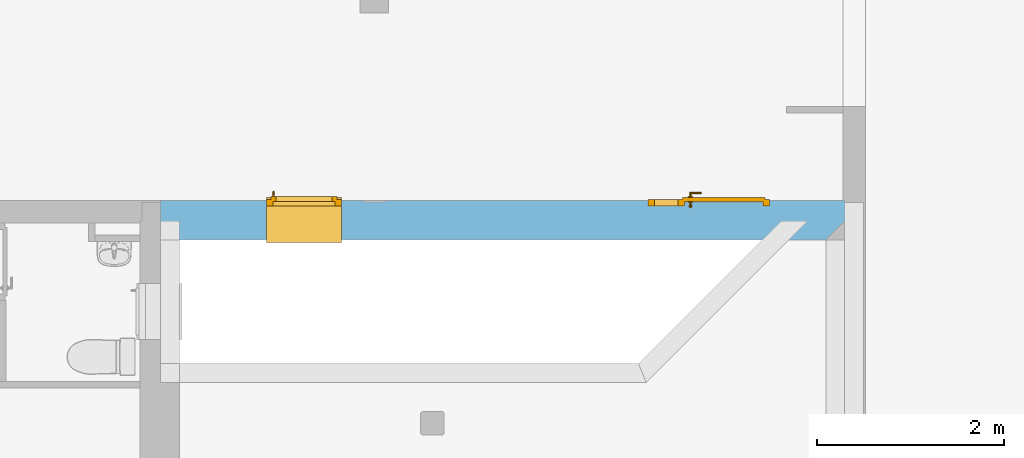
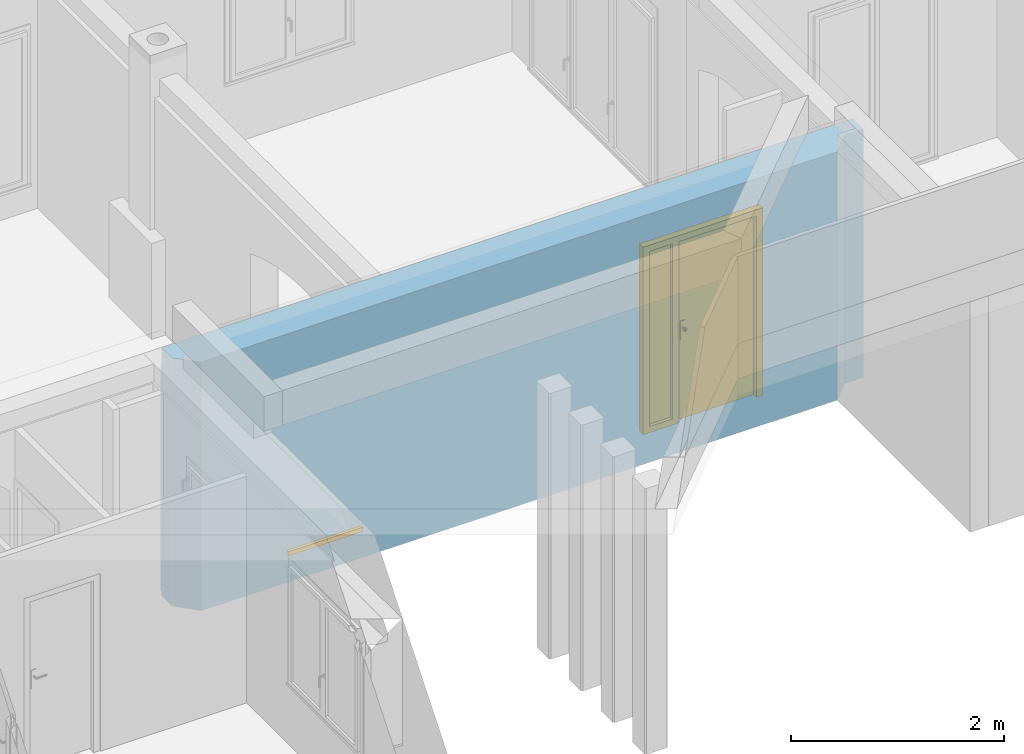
# One storey, part 10 of 16: 1 door, 1 window, 2 openings, plus 1 element that does not belong to this part.
"""IFC4 building model written with IfcOpenShell, lengths in metres."""

from ifc_helpers import new_model, entity, si_unit, converted_unit, frame, origin, origin_with_axes, place, context, subcontext, project, spatial, polyline, outline, extrude, clip, bounded_halfspace, closed_shell, open_shell, surface_model, source, transform, mapped, material, layer, layer_set, layer_usage, type_object, element, fill, save


model = new_model("IFC4")

# Units and contexts
model_context = context("Model", 3, precision=1e-05, world=origin())
body_context = subcontext(model_context, "Body", "Model", "MODEL_VIEW")
ifc_project = project(units=[si_unit("LENGTHUNIT", "METRE"), si_unit("AREAUNIT", "SQUARE_METRE"), si_unit("VOLUMEUNIT", "CUBIC_METRE"), si_unit("MASSUNIT", "GRAM", prefix="KILO"), converted_unit("PLANEANGLEUNIT", "DEGREE", entity("IfcPlaneAngleMeasure", 0.0174532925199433), si_unit("PLANEANGLEUNIT", "RADIAN"), dimensions=[0, 0, 0, 0, 0, 0, 0])], contexts=[model_context])

# Building, storey
building_placement = place(None, origin())
building = spatial("IfcBuilding", under=ifc_project, at=building_placement, Name="Projet de Construction", CompositionType="ELEMENT")
storey_placement = place(building_placement, frame((0.0, 0.0, -0.05)))
storey = spatial("IfcBuildingStorey", under=building, at=storey_placement, Name="RDC", CompositionType="ELEMENT", Elevation=-0.05)

# Wall, openings, door, window
ifc_material_1 = material()
ifc_layer_1 = layer(ifc_material_1, 0.2)
ifc_material_2 = material()
ifc_layer_2 = layer(ifc_material_2, 0.2)
ifc_material_3 = material()
ifc_layer_3 = layer(ifc_material_3, 0.02)
ifc_layer_set = layer_set([ifc_layer_1, ifc_layer_2, ifc_layer_3])
ifc_layer_usage = layer_usage(ifc_layer_set, "AXIS2", "POSITIVE", 0.0)
wall_placement = place(storey_placement, frame((-3.9459375, 1.29979166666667, 0.0), z_axis=(0.0, 0.0, 1.0), x_axis=(1.0, -1.31810826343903e-16, 0.0)))
wall = element("IfcWall", 1, at=wall_placement, inside=storey, material=ifc_layer_usage, context=body_context, shape_type="Clipping", body=[
    clip(clip(extrude(outline(polyline([(0.200000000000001, 9.35856867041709e-16), (7.1, 9.35856867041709e-16), (7.3, 0.200000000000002), (7.5, 0.200000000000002), (7.5, 0.400000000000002), (7.3, 0.400000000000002), (7.3, 0.420000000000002), (-5.53605470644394e-17, 0.420000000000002), (-2.63621652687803e-17, 0.199999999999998), (0.200000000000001, 9.35856867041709e-16)])), frame((-0.200000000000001, -9.35856867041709e-16, 0.0), z_axis=(0.0, 0.0, 1.0), x_axis=(1.0, 0.0, 0.0)), (0.0, 0.0, 1.0), 2.85), bounded_halfspace(frame((3.45, 0.41, 0.05), z_axis=(0.0, 0.0, 1.0), x_axis=(1.31810826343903e-16, -1.0, 0.0)), True, origin_with_axes(), polyline([(-0.200000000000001, 0.420000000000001), (-0.200000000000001, 0.399999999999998), (7.1, 0.400000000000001), (7.1, 0.420000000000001), (-0.200000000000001, 0.420000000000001)]))), bounded_halfspace(frame((3.45, 0.41, 2.65), z_axis=(0.0, 0.0, -1.0), x_axis=(1.0, 3.80987456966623e-16, 0.0)), True, origin_with_axes(), polyline([(-0.200000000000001, 0.399999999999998), (7.1, 0.400000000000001), (7.1, 0.420000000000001), (-0.200000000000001, 0.420000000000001), (-0.200000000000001, 0.399999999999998)]))),
])
opening_1_placement = place(wall_placement, frame((6.3, 0.200000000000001, 0.05), z_axis=(0.0, -1.0, 0.0), x_axis=(0.0, 0.0, 1.0)))
opening_1 = element("IfcOpeningStandardCase", 2, at=opening_1_placement, cuts=wall, Name="Baie de porte", PredefinedType="OPENING", context=body_context, shape_type="SweptSolid", body=[
    extrude(outline(polyline([(0.0, 1.3), (2.15, 1.3), (2.15, 0.0), (0.0, 0.0), (0.0, 1.3)])), origin_with_axes(), (0.0, 0.0, 1.0), 0.200000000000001),
    extrude(outline(polyline([(0.0, 1.3), (2.15, 1.3), (2.15, 0.0), (0.0, 0.0), (0.0, 1.3)])), frame((0.0, -3.49805654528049e-17, -0.2), z_axis=(0.0, 0.0, 1.0), x_axis=(1.0, 0.0, 0.0)), (0.0, 0.0, 1.0), 0.2),
    extrude(outline(polyline([(0.0, 1.3), (2.15, 1.3), (2.15, 0.0), (0.0, 0.0), (0.0, 1.3)])), frame((0.0, -3.84786219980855e-17, -0.22), z_axis=(0.0, 0.0, 1.0), x_axis=(1.0, 0.0, 0.0)), (0.0, 0.0, 1.0), 0.02),
])
opening_2_placement = place(wall_placement, frame((1.73, 0.199999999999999, 0.35), z_axis=(0.0, -1.0, 0.0), x_axis=(0.0, 0.0, 1.0)))
opening_2 = element("IfcOpeningStandardCase", 3, at=opening_2_placement, cuts=wall, Name="Baie de fenêtre", PredefinedType="OPENING", context=body_context, shape_type="SweptSolid", body=[
    extrude(outline(polyline([(0.0, 0.8), (1.85, 0.8), (1.85, 0.0), (0.0, 0.0), (0.0, 0.8)])), origin_with_axes(), (0.0, 0.0, 1.0), 0.199999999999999),
    extrude(outline(polyline([(0.0, 0.8), (1.85, 0.8), (1.85, 0.0), (0.0, 0.0), (0.0, 0.8)])), frame((0.0, -5.6843418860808e-17, -0.2), z_axis=(0.0, 0.0, 1.0), x_axis=(1.0, 0.0, 0.0)), (0.0, 0.0, 1.0), 0.2),
    extrude(outline(polyline([(0.0, 0.8), (1.85, 0.8), (1.85, 0.0), (0.0, 0.0), (0.0, 0.8)])), frame((0.0, -6.25277607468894e-17, -0.220000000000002), z_axis=(0.0, 0.0, 1.0), x_axis=(1.0, 0.0, 0.0)), (0.0, 0.0, 1.0), 0.02),
])
ifc_material_4 = material()
door_type = type_object("IfcDoorType", Name="1 vantail blanc 1 partie latéral", OperationType="NOTDEFINED", ParameterTakesPrecedence=False, PredefinedType="DOOR")
shared_shape_1 = source(origin_with_axes(), body_context, "Body", "SurfaceModel", [
    surface_model("IfcShellBasedSurfaceModel", [(0.0, 0.0900000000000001, 2.15), (0.0, 0.0899999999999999, -4.28626379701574e-18), (0.07, 0.0899999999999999, -4.28626379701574e-18), (0.07, 0.0900000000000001, 2.15), (0.0, 0.0199999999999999, 4.28626379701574e-18), (0.0, 0.0200000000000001, 2.15), (0.07, 0.0200000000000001, 2.15), (0.07, 0.0199999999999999, 4.28626379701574e-18)], [closed_shell([[[0, 1, 2, 3]], [[4, 5, 6, 7]], [[1, 0, 5, 4]], [[2, 1, 4, 7]], [[3, 2, 7, 6]], [[0, 3, 6, 5]]], orient=[[False], [False], [False], [False], [False], [False]])]),
    surface_model("IfcShellBasedSurfaceModel", [(1.23, 0.0900000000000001, 2.15), (1.23, 0.0899999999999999, -4.28626379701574e-18), (1.3, 0.0899999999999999, -4.28626379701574e-18), (1.3, 0.0900000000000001, 2.15), (1.23, 0.0199999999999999, 4.28626379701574e-18), (1.23, 0.0200000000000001, 2.15), (1.3, 0.0200000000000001, 2.15), (1.3, 0.0199999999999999, 4.28626379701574e-18)], [closed_shell([[[0, 1, 2, 3]], [[4, 5, 6, 7]], [[1, 0, 5, 4]], [[2, 1, 4, 7]], [[3, 2, 7, 6]], [[0, 3, 6, 5]]], orient=[[False], [False], [False], [False], [False], [False]])]),
    surface_model("IfcShellBasedSurfaceModel", [(0.07, 0.0900000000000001, 2.15), (0.07, 0.0900000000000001, 2.08), (1.23, 0.0900000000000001, 2.08), (1.23, 0.0900000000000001, 2.15), (0.07, 0.0200000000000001, 2.08), (0.07, 0.0200000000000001, 2.15), (1.23, 0.0200000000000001, 2.15), (1.23, 0.0200000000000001, 2.08)], [closed_shell([[[0, 1, 2, 3]], [[4, 5, 6, 7]], [[1, 0, 5, 4]], [[2, 1, 4, 7]], [[3, 2, 7, 6]], [[0, 3, 6, 5]]], orient=[[False], [False], [False], [False], [False], [False]])]),
    surface_model("IfcShellBasedSurfaceModel", [(0.32, 0.0900000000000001, 2.08), (0.32, 0.0899999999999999, -4.28626379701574e-18), (0.39, 0.0899999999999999, -4.28626379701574e-18), (0.39, 0.0900000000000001, 2.08), (0.32, 0.0199999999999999, 4.28626379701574e-18), (0.32, 0.0200000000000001, 2.08), (0.39, 0.0200000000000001, 2.08), (0.39, 0.0199999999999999, 4.28626379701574e-18)], [closed_shell([[[0, 1, 2, 3]], [[4, 5, 6, 7]], [[1, 0, 5, 4]], [[2, 1, 4, 7]], [[3, 2, 7, 6]], [[0, 3, 6, 5]]], orient=[[False], [False], [False], [False], [False], [False]])]),
    surface_model("IfcShellBasedSurfaceModel", [(0.07, 0.0899999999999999, 0.07), (0.07, 0.0899999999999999, -4.28626379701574e-18), (0.32, 0.0899999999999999, -4.28626379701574e-18), (0.32, 0.0899999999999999, 0.07), (0.07, 0.0199999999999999, 4.28626379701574e-18), (0.07, 0.0199999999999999, 0.07), (0.32, 0.0199999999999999, 0.07), (0.32, 0.0199999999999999, 4.28626379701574e-18)], [closed_shell([[[0, 1, 2, 3]], [[4, 5, 6, 7]], [[1, 0, 5, 4]], [[2, 1, 4, 7]], [[3, 2, 7, 6]], [[0, 3, 6, 5]]], orient=[[False], [False], [False], [False], [False], [False]])]),
    surface_model("IfcShellBasedSurfaceModel", [(0.37, 0.11, 2.1), (0.37, 0.11, -6.73555739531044e-18), (1.25, 0.11, -6.73555739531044e-18), (1.25, 0.11, 2.1), (0.37, 0.0699999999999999, -1.83697019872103e-18), (0.37, 0.0700000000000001, 2.1), (1.25, 0.0700000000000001, 2.1), (1.25, 0.0699999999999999, -1.83697019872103e-18)], [closed_shell([[[0, 1, 2, 3]], [[4, 5, 6, 7]], [[1, 0, 5, 4]], [[2, 1, 4, 7]], [[3, 2, 7, 6]], [[0, 3, 6, 5]]], orient=[[False], [False], [False], [False], [False], [False]])]),
    surface_model("IfcShellBasedSurfaceModel", [(0.43, 0.07, 1.125), (0.43, 0.07, 0.91), (0.48, 0.07, 0.91), (0.48, 0.07, 1.125), (0.43, 0.06, 0.91), (0.43, 0.06, 1.125), (0.48, 0.06, 1.125), (0.48, 0.06, 0.91)], [closed_shell([[[0, 1, 2, 3]], [[4, 5, 6, 7]], [[1, 0, 5, 4]], [[2, 1, 4, 7]], [[3, 2, 7, 6]], [[0, 3, 6, 5]]], orient=[[False], [False], [False], [False], [False], [False]])]),
    surface_model("IfcShellBasedSurfaceModel", [(0.463660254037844, 0.06, 1.045), (0.465, 0.06, 1.05), (0.463660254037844, 0.06, 1.055), (0.46, 0.06, 1.05866025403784), (0.455, 0.06, 1.06), (0.45, 0.06, 1.05866025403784), (0.446339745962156, 0.06, 1.055), (0.445, 0.06, 1.05), (0.446339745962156, 0.06, 1.045), (0.45, 0.06, 1.04133974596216), (0.455, 0.06, 1.04), (0.46, 0.06, 1.04133974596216), (0.465, 0.02, 1.05), (0.463660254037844, 0.02, 1.045), (0.46, 0.02, 1.04133974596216), (0.455, 0.02, 1.04), (0.45, 0.02, 1.04133974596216), (0.446339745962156, 0.02, 1.045), (0.445, 0.02, 1.05), (0.446339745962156, 0.02, 1.055), (0.45, 0.02, 1.05866025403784), (0.455, 0.02, 1.06), (0.46, 0.02, 1.05866025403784), (0.463660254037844, 0.02, 1.055)], [closed_shell([[[0, 1, 2, 3, 4, 5, 6, 7, 8, 9, 10, 11]], [[12, 13, 14, 15, 16, 17, 18, 19, 20, 21, 22, 23]], [[1, 0, 13, 12]], [[2, 1, 12, 23]], [[3, 2, 23, 22]], [[4, 3, 22, 21]], [[5, 4, 21, 20]], [[6, 5, 20, 19]], [[7, 6, 19, 18]], [[8, 7, 18, 17]], [[9, 8, 17, 16]], [[10, 9, 16, 15]], [[11, 10, 15, 14]], [[0, 11, 14, 13]]], orient=[[False], [False], [False], [False], [False], [False], [False], [False], [False], [False], [False], [False], [False], [False]])]),
    surface_model("IfcShellBasedSurfaceModel", [(0.475, 0.02, 1.05), (0.472320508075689, 0.01, 1.05), (0.47, 0.01, 1.05866025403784), (0.472320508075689, 0.02, 1.06), (0.463660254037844, 0.01, 1.065), (0.465, 0.02, 1.06732050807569), (0.455, 0.01, 1.06732050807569), (0.455, 0.02, 1.07), (0.446339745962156, 0.01, 1.065), (0.445, 0.02, 1.06732050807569), (0.44, 0.01, 1.05866025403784), (0.437679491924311, 0.02, 1.06), (0.437679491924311, 0.01, 1.05), (0.435, 0.02, 1.05), (0.44, 0.00999999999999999, 1.04133974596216), (0.437679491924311, 0.02, 1.04), (0.446339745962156, 0.00999999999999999, 1.035), (0.445, 0.02, 1.03267949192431), (0.455, 0.00999999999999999, 1.03267949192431), (0.455, 0.02, 1.03), (0.463660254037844, 0.00999999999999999, 1.035), (0.465, 0.02, 1.03267949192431), (0.47, 0.00999999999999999, 1.04133974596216), (0.472320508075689, 0.02, 1.04), (0.465, 0.00267949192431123, 1.05), (0.463660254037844, 0.00267949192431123, 1.055), (0.46, 0.00267949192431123, 1.05866025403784), (0.455, 0.00267949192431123, 1.06), (0.45, 0.00267949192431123, 1.05866025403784), (0.446339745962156, 0.00267949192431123, 1.055), (0.445, 0.00267949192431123, 1.05), (0.446339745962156, 0.00267949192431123, 1.045), (0.45, 0.00267949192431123, 1.04133974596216), (0.455, 0.00267949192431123, 1.04), (0.46, 0.00267949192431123, 1.04133974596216), (0.463660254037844, 0.00267949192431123, 1.045), (0.455, 0.0, 1.05), (0.472320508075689, 0.03, 1.05), (0.47, 0.03, 1.05866025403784), (0.463660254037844, 0.03, 1.065), (0.455, 0.03, 1.06732050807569), (0.446339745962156, 0.03, 1.065), (0.44, 0.03, 1.05866025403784), (0.437679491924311, 0.03, 1.05), (0.44, 0.03, 1.04133974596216), (0.446339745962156, 0.03, 1.035), (0.455, 0.03, 1.03267949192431), (0.463660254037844, 0.03, 1.035), (0.47, 0.03, 1.04133974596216), (0.465, 0.0373205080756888, 1.05), (0.463660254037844, 0.0373205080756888, 1.055), (0.46, 0.0373205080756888, 1.05866025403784), (0.455, 0.0373205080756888, 1.06), (0.45, 0.0373205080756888, 1.05866025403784), (0.446339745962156, 0.0373205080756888, 1.055), (0.445, 0.0373205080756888, 1.05), (0.446339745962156, 0.0373205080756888, 1.045), (0.45, 0.0373205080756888, 1.04133974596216), (0.455, 0.0373205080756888, 1.04), (0.46, 0.0373205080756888, 1.04133974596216), (0.463660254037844, 0.0373205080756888, 1.045), (0.455, 0.04, 1.05)], [closed_shell([[[0, 1, 2, 3]], [[3, 2, 4, 5]], [[5, 4, 6, 7]], [[7, 6, 8, 9]], [[9, 8, 10, 11]], [[11, 10, 12, 13]], [[13, 12, 14, 15]], [[15, 14, 16, 17]], [[17, 16, 18, 19]], [[19, 18, 20, 21]], [[21, 20, 22, 23]], [[23, 22, 1, 0]], [[1, 24, 25, 2]], [[2, 25, 26, 4]], [[4, 26, 27, 6]], [[6, 27, 28, 8]], [[8, 28, 29, 10]], [[10, 29, 30, 12]], [[12, 30, 31, 14]], [[14, 31, 32, 16]], [[16, 32, 33, 18]], [[18, 33, 34, 20]], [[20, 34, 35, 22]], [[22, 35, 24, 1]], [[24, 36, 25]], [[25, 36, 26]], [[26, 36, 27]], [[27, 36, 28]], [[28, 36, 29]], [[29, 36, 30]], [[30, 36, 31]], [[31, 36, 32]], [[32, 36, 33]], [[33, 36, 34]], [[34, 36, 35]], [[35, 36, 24]], [[37, 0, 3, 38]], [[38, 3, 5, 39]], [[39, 5, 7, 40]], [[40, 7, 9, 41]], [[41, 9, 11, 42]], [[42, 11, 13, 43]], [[43, 13, 15, 44]], [[44, 15, 17, 45]], [[45, 17, 19, 46]], [[46, 19, 21, 47]], [[47, 21, 23, 48]], [[48, 23, 0, 37]], [[49, 37, 38, 50]], [[50, 38, 39, 51]], [[51, 39, 40, 52]], [[52, 40, 41, 53]], [[53, 41, 42, 54]], [[54, 42, 43, 55]], [[55, 43, 44, 56]], [[56, 44, 45, 57]], [[57, 45, 46, 58]], [[58, 46, 47, 59]], [[59, 47, 48, 60]], [[60, 48, 37, 49]], [[61, 49, 50]], [[61, 50, 51]], [[61, 51, 52]], [[61, 52, 53]], [[61, 53, 54]], [[61, 54, 55]], [[61, 55, 56]], [[61, 56, 57]], [[61, 57, 58]], [[61, 58, 59]], [[61, 59, 60]], [[61, 60, 49]]], orient=[[False], [False], [False], [False], [False], [False], [False], [False], [False], [False], [False], [False], [False], [False], [False], [False], [False], [False], [False], [False], [False], [False], [False], [False], [False], [False], [False], [False], [False], [False], [False], [False], [False], [False], [False], [False], [False], [False], [False], [False], [False], [False], [False], [False], [False], [False], [False], [False], [False], [False], [False], [False], [False], [False], [False], [False], [False], [False], [False], [False], [False], [False], [False], [False], [False], [False], [False], [False], [False], [False], [False], [False]])]),
    surface_model("IfcShellBasedSurfaceModel", [(0.43, 0.11, 1.125), (0.48, 0.11, 1.125), (0.48, 0.11, 0.91), (0.43, 0.11, 0.91), (0.43, 0.12, 0.91), (0.48, 0.12, 0.91), (0.48, 0.12, 1.125), (0.43, 0.12, 1.125)], [closed_shell([[[0, 1, 2, 3]], [[4, 5, 6, 7]], [[3, 4, 7, 0]], [[2, 5, 4, 3]], [[1, 6, 5, 2]], [[0, 7, 6, 1]]], orient=[[False], [False], [False], [False], [False], [False]])]),
    surface_model("IfcShellBasedSurfaceModel", [(0.455, 0.12, 1.06), (0.46, 0.12, 1.05866025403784), (0.463660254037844, 0.12, 1.055), (0.465, 0.12, 1.05), (0.463660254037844, 0.12, 1.045), (0.46, 0.12, 1.04133974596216), (0.455, 0.12, 1.04), (0.45, 0.12, 1.04133974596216), (0.446339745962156, 0.12, 1.045), (0.445, 0.12, 1.05), (0.446339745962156, 0.12, 1.055), (0.45, 0.12, 1.05866025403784), (0.45, 0.165, 1.05866025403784), (0.455, 0.16, 1.06), (0.446339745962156, 0.168660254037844, 1.055), (0.445, 0.17, 1.05), (0.446339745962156, 0.168660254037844, 1.045), (0.45, 0.165, 1.04133974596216), (0.455, 0.16, 1.04), (0.46, 0.155, 1.04133974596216), (0.463660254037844, 0.151339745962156, 1.045), (0.465, 0.15, 1.05), (0.463660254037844, 0.151339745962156, 1.055), (0.46, 0.155, 1.05866025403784), (0.57, 0.16, 1.06), (0.57, 0.165, 1.05866025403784), (0.57, 0.168660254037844, 1.055), (0.57, 0.17, 1.05), (0.57, 0.168660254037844, 1.045), (0.57, 0.165, 1.04133974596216), (0.57, 0.16, 1.04), (0.57, 0.155, 1.04133974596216), (0.57, 0.151339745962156, 1.045), (0.57, 0.15, 1.05), (0.57, 0.151339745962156, 1.055), (0.57, 0.155, 1.05866025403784)], [closed_shell([[[0, 1, 2, 3, 4, 5, 6, 7, 8, 9, 10, 11]], [[0, 11, 12, 13]], [[11, 10, 14, 12]], [[10, 9, 15, 14]], [[9, 8, 16, 15]], [[8, 7, 17, 16]], [[7, 6, 18, 17]], [[6, 5, 19, 18]], [[5, 4, 20, 19]], [[4, 3, 21, 20]], [[3, 2, 22, 21]], [[2, 1, 23, 22]], [[1, 0, 13, 23]], [[24, 25, 26, 27, 28, 29, 30, 31, 32, 33, 34, 35]], [[13, 12, 25, 24]], [[12, 14, 26, 25]], [[14, 15, 27, 26]], [[15, 16, 28, 27]], [[16, 17, 29, 28]], [[17, 18, 30, 29]], [[18, 19, 31, 30]], [[19, 20, 32, 31]], [[20, 21, 33, 32]], [[21, 22, 34, 33]], [[22, 23, 35, 34]], [[23, 13, 24, 35]]], orient=[[False], [False], [False], [False], [False], [False], [False], [False], [False], [False], [False], [False], [False], [False], [False], [False], [False], [False], [False], [False], [False], [False], [False], [False], [False], [False]])]),
    surface_model("IfcShellBasedSurfaceModel", [(0.07, 0.0549999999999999, 0.07), (0.32, 0.0549999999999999, 0.07), (0.32, 0.0550000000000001, 2.08), (0.07, 0.0550000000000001, 2.08)], [open_shell([[[0, 1, 2, 3]]], orient=[[False]])]),
])
door_placement = place(opening_1_placement, frame((0.0, 1.3, -0.140000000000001), z_axis=(1.0, 0.0, 0.0), x_axis=(0.0, -1.0, 1.13118533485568e-16)))
door = element("IfcDoor", 4, at=door_placement, inside=storey, type_object=door_type, material=ifc_material_4, Name="1 vantail blanc 1 partie latéral", OverallHeight=2.15, OverallWidth=1.3, context=body_context, shape_type="MappedRepresentation", body=[
    mapped(shared_shape_1, transform((0.0, 0.0, 0.0), x_axis=(1.0, 0.0, 0.0), y_axis=(0.0, 1.0, 0.0), z_axis=(0.0, 0.0, 1.0), scale=1.0)),
])
fill(opening_1, door)
ifc_material_5 = material()
window_type = type_object("IfcWindowType", Name="1 vantail blanc", ParameterTakesPrecedence=False, PartitioningType="SINGLE_PANEL", PredefinedType="WINDOW")
shared_shape_2 = source(origin_with_axes(), body_context, "Body", "SurfaceModel", [
    surface_model("IfcShellBasedSurfaceModel", [(0.0, -0.37, 0.0), (0.0, 0.0, 0.0), (0.0, 0.0, 0.03), (0.0, -0.39, 0.02), (0.0, -0.39, -0.03), (0.0, -0.37, -0.03), (0.8, -2.27373675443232e-16, 1.13686837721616e-16), (0.8, -0.37, 1.13686837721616e-16), (0.8, -0.37, -0.0299999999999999), (0.8, -0.39, -0.0299999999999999), (0.8, -0.39, 0.0200000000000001), (0.8, -2.27373675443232e-16, 0.0300000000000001)], [closed_shell([[[0, 1, 2, 3, 4, 5]], [[6, 7, 8, 9, 10, 11]], [[1, 0, 7, 6]], [[2, 1, 6, 11]], [[3, 2, 11, 10]], [[4, 3, 10, 9]], [[5, 4, 9, 8]], [[0, 5, 8, 7]]], orient=[[False], [False], [False], [False], [False], [False], [False], [False]])]),
    surface_model("IfcShellBasedSurfaceModel", [(0.0, 0.09, 0.0), (0.0, 0.09, 0.03), (0.0, 0.04, 0.03), (0.0, 0.04, 0.0), (0.8, 0.0399999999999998, 1.13686837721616e-16), (0.8, 0.0399999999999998, 0.0300000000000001), (0.8, 0.0899999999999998, 0.0300000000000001), (0.8, 0.0899999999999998, 1.13686837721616e-16)], [closed_shell([[[0, 1, 2, 3]], [[4, 5, 6, 7]], [[3, 4, 7, 0]], [[2, 5, 4, 3]], [[1, 6, 5, 2]], [[0, 7, 6, 1]]], orient=[[False], [False], [False], [False], [False], [False]])]),
    surface_model("IfcShellBasedSurfaceModel", [(0.0, 0.0700000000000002, 1.85), (0.0, 0.07, 0.0), (0.07, 0.07, 0.0), (0.07, 0.0700000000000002, 1.85), (0.0, 0.0, 0.0), (0.0, 2.27373675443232e-16, 1.85), (0.07, 2.27373675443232e-16, 1.85), (0.07, 0.0, 0.0)], [closed_shell([[[0, 1, 2, 3]], [[4, 5, 6, 7]], [[1, 0, 5, 4]], [[2, 1, 4, 7]], [[3, 2, 7, 6]], [[0, 3, 6, 5]]], orient=[[False], [False], [False], [False], [False], [False]])]),
    surface_model("IfcShellBasedSurfaceModel", [(0.73, 0.07, 1.85), (0.73, 0.0699999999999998, 0.0), (0.8, 0.0699999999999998, 0.0), (0.8, 0.07, 1.85), (0.73, -2.27373675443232e-16, 0.0), (0.73, 0.0, 1.85), (0.8, 0.0, 1.85), (0.8, -2.27373675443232e-16, 0.0)], [closed_shell([[[0, 1, 2, 3]], [[4, 5, 6, 7]], [[1, 0, 5, 4]], [[2, 1, 4, 7]], [[3, 2, 7, 6]], [[0, 3, 6, 5]]], orient=[[False], [False], [False], [False], [False], [False]])]),
    surface_model("IfcShellBasedSurfaceModel", [(0.07, 0.07, 0.07), (0.07, 0.07, 0.0), (0.73, 0.0699999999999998, 0.0), (0.73, 0.0699999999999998, 0.07), (0.07, 0.0, 0.0), (0.07, 0.0, 0.07), (0.73, -2.27373675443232e-16, 0.07), (0.73, -2.27373675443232e-16, 0.0)], [closed_shell([[[0, 1, 2, 3]], [[4, 5, 6, 7]], [[1, 0, 5, 4]], [[2, 1, 4, 7]], [[3, 2, 7, 6]], [[0, 3, 6, 5]]], orient=[[False], [False], [False], [False], [False], [False]])]),
    surface_model("IfcShellBasedSurfaceModel", [(0.07, 0.0700000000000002, 1.85), (0.07, 0.0700000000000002, 1.78), (0.73, 0.07, 1.78), (0.73, 0.07, 1.85), (0.07, 2.27373675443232e-16, 1.78), (0.07, 2.27373675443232e-16, 1.85), (0.73, 0.0, 1.85), (0.73, 0.0, 1.78)], [closed_shell([[[0, 1, 2, 3]], [[4, 5, 6, 7]], [[1, 0, 5, 4]], [[2, 1, 4, 7]], [[3, 2, 7, 6]], [[0, 3, 6, 5]]], orient=[[False], [False], [False], [False], [False], [False]])]),
    surface_model("IfcShellBasedSurfaceModel", [(0.05, 0.1, 1.8), (0.05, 0.1, 0.05), (0.1, 0.1, 0.05), (0.1, 0.1, 1.8), (0.05, 0.05, 0.05), (0.05, 0.0500000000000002, 1.8), (0.1, 0.0500000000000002, 1.8), (0.1, 0.05, 0.05)], [closed_shell([[[0, 1, 2, 3]], [[4, 5, 6, 7]], [[1, 0, 5, 4]], [[2, 1, 4, 7]], [[3, 2, 7, 6]], [[0, 3, 6, 5]]], orient=[[False], [False], [False], [False], [False], [False]])]),
    surface_model("IfcShellBasedSurfaceModel", [(0.7, 0.1, 1.8), (0.7, 0.0999999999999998, 0.05), (0.75, 0.0999999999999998, 0.05), (0.75, 0.1, 1.8), (0.7, 0.0499999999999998, 0.05), (0.7, 0.05, 1.8), (0.75, 0.05, 1.8), (0.75, 0.0499999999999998, 0.05)], [closed_shell([[[0, 1, 2, 3]], [[4, 5, 6, 7]], [[1, 0, 5, 4]], [[2, 1, 4, 7]], [[3, 2, 7, 6]], [[0, 3, 6, 5]]], orient=[[False], [False], [False], [False], [False], [False]])]),
    surface_model("IfcShellBasedSurfaceModel", [(0.1, 0.1, 0.1), (0.1, 0.1, 0.05), (0.7, 0.0999999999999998, 0.05), (0.7, 0.0999999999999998, 0.1), (0.1, 0.05, 0.05), (0.1, 0.05, 0.1), (0.7, 0.0499999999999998, 0.1), (0.7, 0.0499999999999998, 0.05)], [closed_shell([[[0, 1, 2, 3]], [[4, 5, 6, 7]], [[1, 0, 5, 4]], [[2, 1, 4, 7]], [[3, 2, 7, 6]], [[0, 3, 6, 5]]], orient=[[False], [False], [False], [False], [False], [False]])]),
    surface_model("IfcShellBasedSurfaceModel", [(0.1, 0.1, 1.8), (0.1, 0.1, 1.75), (0.7, 0.1, 1.75), (0.7, 0.1, 1.8), (0.1, 0.0500000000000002, 1.75), (0.1, 0.0500000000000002, 1.8), (0.7, 0.05, 1.8), (0.7, 0.05, 1.75)], [closed_shell([[[0, 1, 2, 3]], [[4, 5, 6, 7]], [[1, 0, 5, 4]], [[2, 1, 4, 7]], [[3, 2, 7, 6]], [[0, 3, 6, 5]]], orient=[[False], [False], [False], [False], [False], [False]])]),
    surface_model("IfcShellBasedSurfaceModel", [(0.0625, 0.1, 0.67), (0.0875, 0.1, 0.67), (0.0875, 0.1, 0.63), (0.0625, 0.1, 0.63), (0.0625, 0.11, 0.63), (0.0875, 0.11, 0.63), (0.0875, 0.11, 0.67), (0.0625, 0.11, 0.67)], [closed_shell([[[0, 1, 2, 3]], [[4, 5, 6, 7]], [[3, 4, 7, 0]], [[2, 5, 4, 3]], [[1, 6, 5, 2]], [[0, 7, 6, 1]]], orient=[[False], [False], [False], [False], [False], [False]])]),
    surface_model("IfcShellBasedSurfaceModel", [(0.085, 0.11, 0.65), (0.0836602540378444, 0.11, 0.645), (0.08, 0.11, 0.641339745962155), (0.075, 0.11, 0.64), (0.07, 0.11, 0.641339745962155), (0.0663397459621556, 0.11, 0.645), (0.065, 0.11, 0.65), (0.0663397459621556, 0.11, 0.655), (0.07, 0.11, 0.658660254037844), (0.075, 0.11, 0.66), (0.08, 0.11, 0.658660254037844), (0.0836602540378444, 0.11, 0.655), (0.0836602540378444, 0.155, 0.655), (0.085, 0.15, 0.65), (0.08, 0.158660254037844, 0.658660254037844), (0.075, 0.16, 0.66), (0.07, 0.158660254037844, 0.658660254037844), (0.0663397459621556, 0.155, 0.655), (0.065, 0.15, 0.65), (0.0663397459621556, 0.145, 0.645), (0.07, 0.141339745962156, 0.641339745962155), (0.075, 0.14, 0.64), (0.08, 0.141339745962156, 0.641339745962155), (0.0836602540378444, 0.145, 0.645), (0.085, 0.15, 0.535), (0.0836602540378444, 0.155, 0.535), (0.08, 0.158660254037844, 0.535), (0.075, 0.16, 0.535), (0.07, 0.158660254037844, 0.535), (0.0663397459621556, 0.155, 0.535), (0.065, 0.15, 0.535), (0.0663397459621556, 0.145, 0.535), (0.07, 0.141339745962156, 0.535), (0.075, 0.14, 0.535), (0.08, 0.141339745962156, 0.535), (0.0836602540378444, 0.145, 0.535)], [closed_shell([[[0, 1, 2, 3, 4, 5, 6, 7, 8, 9, 10, 11]], [[0, 11, 12, 13]], [[11, 10, 14, 12]], [[10, 9, 15, 14]], [[9, 8, 16, 15]], [[8, 7, 17, 16]], [[7, 6, 18, 17]], [[6, 5, 19, 18]], [[5, 4, 20, 19]], [[4, 3, 21, 20]], [[3, 2, 22, 21]], [[2, 1, 23, 22]], [[1, 0, 13, 23]], [[24, 25, 26, 27, 28, 29, 30, 31, 32, 33, 34, 35]], [[13, 12, 25, 24]], [[12, 14, 26, 25]], [[14, 15, 27, 26]], [[15, 16, 28, 27]], [[16, 17, 29, 28]], [[17, 18, 30, 29]], [[18, 19, 31, 30]], [[19, 20, 32, 31]], [[20, 21, 33, 32]], [[21, 22, 34, 33]], [[22, 23, 35, 34]], [[23, 13, 24, 35]]], orient=[[False], [False], [False], [False], [False], [False], [False], [False], [False], [False], [False], [False], [False], [False], [False], [False], [False], [False], [False], [False], [False], [False], [False], [False], [False], [False]])]),
    surface_model("IfcShellBasedSurfaceModel", [(0.1, 0.075, 0.1), (0.7, 0.0749999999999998, 0.1), (0.7, 0.075, 1.75), (0.1, 0.0750000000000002, 1.75)], [open_shell([[[0, 1, 2, 3]]], orient=[[False]])]),
])
window_placement = place(opening_2_placement, frame((0.0, 0.8, -0.160000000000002), z_axis=(1.0, 0.0, 0.0), x_axis=(0.0, -1.0, -1.31810826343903e-16)))
window = element("IfcWindow", 5, at=window_placement, inside=storey, type_object=window_type, material=ifc_material_5, Name="1 vantail blanc", OverallHeight=1.85, OverallWidth=0.8, context=body_context, shape_type="MappedRepresentation", body=[
    mapped(shared_shape_2, transform((0.0, 0.0, 0.0), x_axis=(1.0, 0.0, 0.0), y_axis=(0.0, 1.0, 0.0), z_axis=(0.0, 0.0, 1.0), scale=1.0)),
])
fill(opening_2, window)

save(model, "model.ifc")
